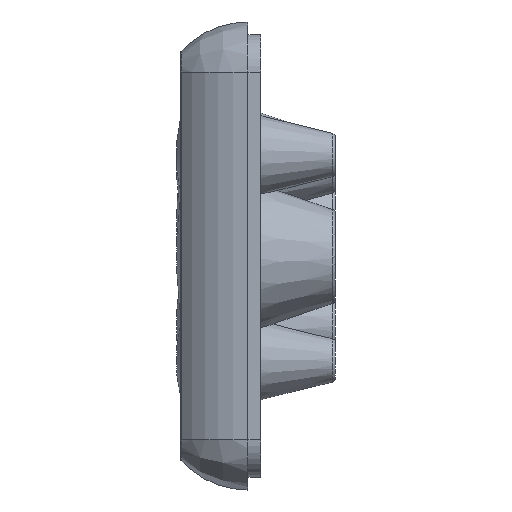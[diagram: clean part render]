
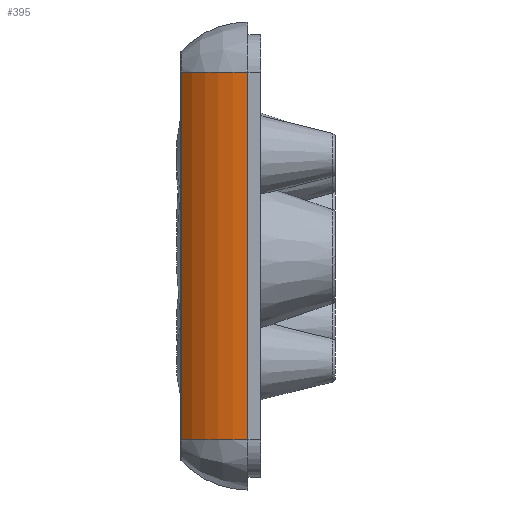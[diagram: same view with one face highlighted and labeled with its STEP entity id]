
A CAD part, left-side view. The second image highlights one B-rep face of the part: STEP entity #395.
In plain terms, the highlighted cylindrical face has radius 10.893 mm (diameter 21.786 mm), a partial arc.
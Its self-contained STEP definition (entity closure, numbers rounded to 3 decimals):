
#395 = ADVANCED_FACE( '', ( #868 ), #869, .T. );
#868 = FACE_OUTER_BOUND( '', #1427, .T. );
#869 = CYLINDRICAL_SURFACE( '', #1428, 10.893 );
#1427 = EDGE_LOOP( '', ( #2344, #2345, #2346, #2347 ) );
#1428 = AXIS2_PLACEMENT_3D( '', #2348, #2349, #2350 );
#2344 = ORIENTED_EDGE( '', *, *, #2633, .T. );
#2345 = ORIENTED_EDGE( '', *, *, #2484, .T. );
#2346 = ORIENTED_EDGE( '', *, *, #2654, .F. );
#2347 = ORIENTED_EDGE( '', *, *, #2692, .F. );
#2348 = CARTESIAN_POINT( '', ( -42.605, 0., 28. ) );
#2349 = DIRECTION( '', ( 0., 0., 1. ) );
#2350 = DIRECTION( '', ( -1., 0., 0. ) );
#2484 = EDGE_CURVE( '', #2896, #2900, #2902, .T. );
#2633 = EDGE_CURVE( '', #3106, #2896, #3124, .T. );
#2654 = EDGE_CURVE( '', #3148, #2900, #3150, .T. );
#2692 = EDGE_CURVE( '', #3106, #3148, #3202, .T. );
#2896 = VERTEX_POINT( '', #3459 );
#2900 = VERTEX_POINT( '', #3463 );
#2902 = CIRCLE( '', #3465, 10.893 );
#3106 = VERTEX_POINT( '', #3914 );
#3124 = LINE( '', #3947, #3948 );
#3148 = VERTEX_POINT( '', #3975 );
#3150 = LINE( '', #3977, #3978 );
#3202 = CIRCLE( '', #4075, 10.893 );
#3459 = CARTESIAN_POINT( '', ( -50., 7.998, -22. ) );
#3463 = CARTESIAN_POINT( '', ( -53.498, 0., -22. ) );
#3465 = AXIS2_PLACEMENT_3D( '', #4295, #4296, #4297 );
#3914 = CARTESIAN_POINT( '', ( -50., 7.998, 22. ) );
#3947 = CARTESIAN_POINT( '', ( -50., 7.998, 28. ) );
#3948 = VECTOR( '', #4507, 1000. );
#3975 = CARTESIAN_POINT( '', ( -53.498, 0., 22. ) );
#3977 = CARTESIAN_POINT( '', ( -53.498, 0., 28. ) );
#3978 = VECTOR( '', #4532, 1000. );
#4075 = AXIS2_PLACEMENT_3D( '', #4580, #4581, #4582 );
#4295 = CARTESIAN_POINT( '', ( -42.605, 0., -22. ) );
#4296 = DIRECTION( '', ( 0., 0., 1. ) );
#4297 = DIRECTION( '', ( 1., 0., 0. ) );
#4507 = DIRECTION( '', ( 0., 0., -1. ) );
#4532 = DIRECTION( '', ( 0., 0., -1. ) );
#4580 = CARTESIAN_POINT( '', ( -42.605, 0., 22. ) );
#4581 = DIRECTION( '', ( 0., 0., 1. ) );
#4582 = DIRECTION( '', ( 1., 0., 0. ) );
